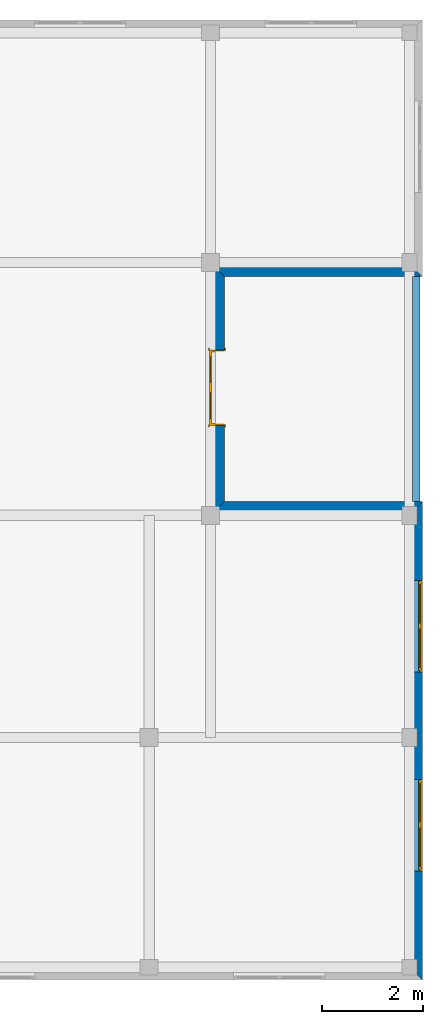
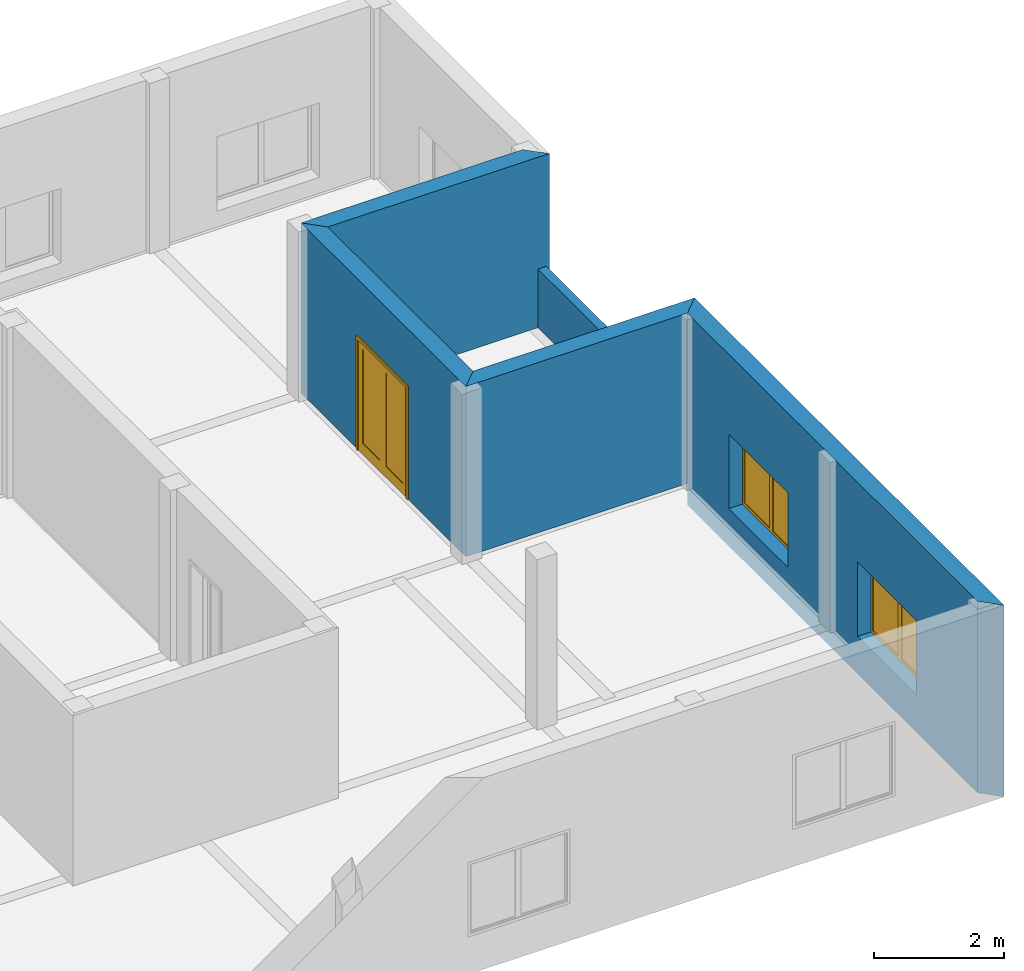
# One storey, part 4 of 6: 5 walls, 2 windows, 1 door, 3 openings.
"""IFC2X3 building model written with IfcOpenShell, lengths in millimetres."""

from ifc_helpers import new_model, entity, si_unit, converted_unit, direction, frame, origin_with_axes, origin_2d_with_axis, place, context, subcontext, project, spatial, polyline, rectangle, outline, extrude, faceted_brep, source, transform, mapped, material, layer, layer_set, layer_usage, type_object, element, fill, save


model = new_model("IFC2X3")

# Units and contexts
model_context = context("Model", 3, precision=1e-05, world=origin_with_axes(), true_north=direction((0.0, 1.0)))
body_context = subcontext(model_context, "Body", "Model", "MODEL_VIEW")
ifc_project = project(units=[si_unit("LENGTHUNIT", "METRE", prefix="MILLI"), si_unit("AREAUNIT", "SQUARE_METRE"), si_unit("VOLUMEUNIT", "CUBIC_METRE"), converted_unit("PLANEANGLEUNIT", "DEGREE", entity("IfcPlaneAngleMeasure", 0.017453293), si_unit("PLANEANGLEUNIT", "RADIAN"), dimensions=[0, 0, 0, 0, 0, 0, 0]), si_unit("SOLIDANGLEUNIT", "STERADIAN"), si_unit("MASSUNIT", "GRAM"), si_unit("TIMEUNIT", "SECOND"), si_unit("THERMODYNAMICTEMPERATUREUNIT", "DEGREE_CELSIUS"), si_unit("LUMINOUSINTENSITYUNIT", "LUMEN")], contexts=[model_context])

# Site, building, storey
site_placement = place(None, origin_with_axes())
site = spatial("IfcSite", under=ifc_project, at=site_placement, Name="Sitio", CompositionType="ELEMENT")
building_placement = place(site_placement, origin_with_axes())
building = spatial("IfcBuilding", under=site, at=building_placement, Name="Ejemplo_StruBIM", CompositionType="ELEMENT")
storey_placement = place(building_placement, frame((0.0, 0.0, 3200.4), z_axis=(0.0, 0.0, 1.0), x_axis=(1.0, 0.0, 0.0)))
storey = spatial("IfcBuildingStorey", under=building, at=storey_placement, Name="First floor", CompositionType="ELEMENT", Elevation=3200.4)

# Walls
ifc_material_1 = material(Name="Bloque mampostería")
ifc_layer_1 = layer(ifc_material_1, 300.0, ventilated="UNKNOWN")
ifc_layer_set_1 = layer_set([ifc_layer_1], Name="Bloque mampostería 300")
ifc_layer_usage_1 = layer_usage(ifc_layer_set_1, "AXIS2", "POSITIVE", 0.0)
wall_type_1 = type_object("IfcWallType", Name="Bloque mampostería 11 3/4\"", PredefinedType="NOTDEFINED")
wall_1_placement = place(storey_placement, frame((18872.2, 13741.4, 0.0), z_axis=(0.0, 0.0, 1.0), x_axis=(1.0, 0.0, 0.0)))
element("IfcWallStandardCase", 1, at=wall_1_placement, inside=storey, type_object=wall_type_1, material=ifc_layer_usage_1, Name="Muro-012", context=body_context, shape_type="SweptSolid", body=[
    extrude(outline(polyline([(0.0, 0.0), (3937.0, 0.0), (3637.0, 300.0), (-300.0, 300.0), (0.0, 0.0)])), origin_with_axes(), (0.0, 0.0, 1.0), 3200.4),
])
ifc_layer_usage_2 = layer_usage(ifc_layer_set_1, "AXIS2", "POSITIVE", 0.0)
wall_2_placement = place(storey_placement, frame((22809.2, 9271.0, 0.0), z_axis=(0.0, 0.0, 1.0), x_axis=(-1.0, 0.0, 0.0)))
element("IfcWallStandardCase", 2, at=wall_2_placement, inside=storey, type_object=wall_type_1, material=ifc_layer_usage_2, Name="Muro-012", context=body_context, shape_type="SweptSolid", body=[
    extrude(outline(polyline([(0.0, 0.0), (3937.0, 0.0), (4237.0, 300.0), (300.0, 300.0), (0.0, 0.0)])), origin_with_axes(), (0.0, 0.0, 1.0), 3200.4),
])

# Wall, opening, door
ifc_layer_usage_3 = layer_usage(ifc_layer_set_1, "AXIS2", "POSITIVE", 0.0)
wall_3_placement = place(storey_placement, frame((18872.2, 9271.0, 0.0), z_axis=(0.0, 0.0, 1.0), x_axis=(0.0, 1.0, 0.0)))
wall_3 = element("IfcWallStandardCase", 3, at=wall_3_placement, inside=storey, type_object=wall_type_1, material=ifc_layer_usage_3, Name="Muro-013", context=body_context, shape_type="SweptSolid", body=[
    extrude(outline(polyline([(0.0, 0.0), (4470.4, 0.0), (4770.4, 300.0), (-300.0, 300.0), (0.0, 0.0)])), origin_with_axes(), (0.0, 0.0, 1.0), 3200.4),
])
opening_1_placement = place(wall_3_placement, frame((2260.6, 0.0, 0.0), z_axis=(0.0, 0.0, 1.0), x_axis=(1.0, 0.0, 0.0)))
opening_1 = element("IfcOpeningElement", 4, at=opening_1_placement, cuts=wall_3, Name="P07", context=body_context, shape_type="SweptSolid", body=[
    extrude(rectangle(XDim=1500.0, YDim=2100.0, at=origin_2d_with_axis()), frame((0.0, 0.0, 1050.0), z_axis=(0.0, -1.0, 0.0), x_axis=(1.0, 0.0, 0.0)), (0.0, 0.0, -1.0), 300.0),
    extrude(rectangle(XDim=1574.0, YDim=2137.0, at=origin_2d_with_axis()), frame((0.0, 0.0, 1068.5), z_axis=(0.0, -1.0, 0.0), x_axis=(1.0, 0.0, 0.0)), (0.0, 0.0, 1.0), 300.0),
    extrude(rectangle(XDim=1574.0, YDim=2137.0, at=origin_2d_with_axis()), frame((0.0, 300.0, 1068.5), z_axis=(0.0, 1.0, 0.0), x_axis=(1.0, 0.0, 0.0)), (0.0, 0.0, 1.0), 300.0),
])
ifc_material_2 = material(Name="Fondo")
door_style = type_object("IfcDoorStyle", Name="Puerta Doble 16", ConstructionType="NOTDEFINED", OperationType="SINGLE_SWING_LEFT", ParameterTakesPrecedence=False, Sizeable=False)
shared_shape_1 = source(origin_with_axes(), body_context, "Body", "Brep", [
    faceted_brep([(750.0, -115.0, 0.0), (750.0, -300.0, 0.0), (725.0, -300.0, 0.0), (725.0, -115.0, 0.0), (750.0, -115.0, 2100.0), (750.0, -300.0, 2100.0), (725.0, -300.0, 2075.0), (725.0, -115.0, 2075.0)], [[[0, 1, 2, 3]], [[4, 5, 1, 0]], [[1, 5, 6, 2]], [[3, 2, 6, 7]], [[0, 3, 7, 4]], [[7, 6, 5, 4]]]),
    faceted_brep([(-750.0, -115.0, 2100.0), (-750.0, -300.0, 2100.0), (-725.0, -300.0, 2075.0), (-725.0, -115.0, 2075.0), (-750.0, -115.0, 0.0), (-750.0, -300.0, 0.0), (-725.0, -300.0, 0.0), (-725.0, -115.0, 0.0)], [[[0, 1, 2, 3]], [[4, 5, 1, 0]], [[1, 5, 6, 2]], [[3, 2, 6, 7]], [[0, 3, 7, 4]], [[7, 6, 5, 4]]]),
    faceted_brep([(725.0, -115.0, 2075.0), (725.0, -300.0, 2075.0), (-725.0, -300.0, 2075.0), (-725.0, -115.0, 2075.0), (750.0, -115.0, 2100.0), (750.0, -300.0, 2100.0), (-750.0, -300.0, 2100.0), (-750.0, -115.0, 2100.0)], [[[0, 1, 2, 3]], [[4, 5, 1, 0]], [[1, 5, 6, 2]], [[3, 2, 6, 7]], [[0, 3, 7, 4]], [[7, 6, 5, 4]]]),
    faceted_brep([(787.0, -319.0, 0.0), (737.0, -319.0, 0.0), (737.0, -300.0, 0.0), (787.0, -300.0, 0.0), (787.0, -319.0, 2137.0), (737.0, -319.0, 2087.0), (737.0, -300.0, 2087.0), (787.0, -300.0, 2137.0)], [[[0, 1, 2, 3]], [[0, 4, 5, 1]], [[1, 5, 6, 2]], [[3, 2, 6, 7]], [[4, 0, 3, 7]], [[5, 4, 7, 6]]]),
    faceted_brep([(-787.0, -319.0, 2137.0), (-737.0, -319.0, 2087.0), (-737.0, -300.0, 2087.0), (-787.0, -300.0, 2137.0), (-787.0, -319.0, 0.0), (-737.0, -319.0, 0.0), (-737.0, -300.0, 0.0), (-787.0, -300.0, 0.0)], [[[0, 1, 2, 3]], [[0, 4, 5, 1]], [[1, 5, 6, 2]], [[3, 2, 6, 7]], [[4, 0, 3, 7]], [[5, 4, 7, 6]]]),
    faceted_brep([(787.0, -319.0, 2137.0), (737.0, -319.0, 2087.0), (737.0, -300.0, 2087.0), (787.0, -300.0, 2137.0), (-787.0, -319.0, 2137.0), (-737.0, -319.0, 2087.0), (-737.0, -300.0, 2087.0), (-787.0, -300.0, 2137.0)], [[[0, 1, 2, 3]], [[0, 4, 5, 1]], [[1, 5, 6, 2]], [[3, 2, 6, 7]], [[4, 0, 3, 7]], [[5, 4, 7, 6]]]),
    faceted_brep([(787.0, 19.0, 0.0), (787.0, 0.0, 0.0), (737.0, 0.0, 0.0), (737.0, 19.0, 0.0), (787.0, 19.0, 2137.0), (787.0, 0.0, 2137.0), (737.0, 0.0, 2087.0), (737.0, 19.0, 2087.0)], [[[0, 1, 2, 3]], [[4, 5, 1, 0]], [[1, 5, 6, 2]], [[3, 2, 6, 7]], [[0, 3, 7, 4]], [[7, 6, 5, 4]]]),
    faceted_brep([(-787.0, 19.0, 2137.0), (-787.0, 0.0, 2137.0), (-737.0, 0.0, 2087.0), (-737.0, 19.0, 2087.0), (-787.0, 19.0, 0.0), (-787.0, 0.0, 0.0), (-737.0, 0.0, 0.0), (-737.0, 19.0, 0.0)], [[[0, 1, 2, 3]], [[4, 5, 1, 0]], [[1, 5, 6, 2]], [[3, 2, 6, 7]], [[0, 3, 7, 4]], [[7, 6, 5, 4]]]),
    faceted_brep([(787.0, 19.0, 2137.0), (787.0, 0.0, 2137.0), (737.0, 0.0, 2087.0), (737.0, 19.0, 2087.0), (-787.0, 19.0, 2137.0), (-787.0, 0.0, 2137.0), (-737.0, 0.0, 2087.0), (-737.0, 19.0, 2087.0)], [[[0, 1, 2, 3]], [[4, 5, 1, 0]], [[1, 5, 6, 2]], [[3, 2, 6, 7]], [[0, 3, 7, 4]], [[7, 6, 5, 4]]]),
    faceted_brep([(710.0, -40.0, 0.0), (710.0, -115.0, 0.0), (710.0, -115.0, 2060.0), (710.0, -40.0, 2060.0), (722.0, -40.0, 0.0), (722.0, 2.2351741e-07, 0.0), (750.0, 2.2351741e-07, -3.8951635e-07), (750.0, -115.0, 0.0), (750.0, -115.0, 2060.0), (722.0, -40.0, 2060.0), (750.0, 2.2351741e-07, 2060.0), (722.0, 2.2351741e-07, 2060.0)], [[[0, 1, 2, 3]], [[4, 5, 6, 7, 1, 0]], [[8, 2, 1, 7]], [[9, 3, 2, 8, 10, 11]], [[9, 4, 0, 3]], [[11, 5, 4, 9]], [[11, 10, 6, 5]], [[7, 6, 10, 8]]]),
    faceted_brep([(-722.0, -40.0, 2060.0), (-722.0, 2.2351741e-07, 2060.0), (-750.0, 2.2351741e-07, 2060.0), (-750.0, -115.0, 2060.0), (-710.0, -115.0, 2060.0), (-710.0, -40.0, 2060.0), (-722.0, -40.0, 0.0), (-722.0, 2.2351741e-07, 0.0), (-750.0, 2.2351741e-07, -3.8951635e-07), (-750.0, -115.0, 0.0), (-710.0, -115.0, 0.0), (-710.0, -40.0, 0.0)], [[[0, 1, 2, 3, 4, 5]], [[0, 6, 7, 1]], [[7, 8, 2, 1]], [[3, 2, 8, 9]], [[10, 4, 3, 9]], [[5, 4, 10, 11]], [[5, 11, 6, 0]], [[6, 11, 10, 9, 8, 7]]]),
    faceted_brep([(722.0, 2.2351741e-07, 2072.0), (-722.0, 2.2351741e-07, 2072.0), (-722.0, 2.2351741e-07, 2060.0), (-750.0, 2.2351741e-07, 2060.0), (-750.0, 2.2351741e-07, 2100.0), (750.0, 2.2351741e-07, 2100.0), (750.0, 2.2351741e-07, 2060.0), (722.0, 2.2351741e-07, 2060.0), (722.0, -40.0, 2072.0), (-722.0, -40.0, 2072.0), (-722.0, -40.0, 2060.0), (-710.0, -40.0, 2060.0), (-710.0, -115.0, 2060.0), (-750.0, -115.0, 2060.0), (-750.0, -115.0, 2100.0), (750.0, -115.0, 2100.0), (750.0, -115.0, 2060.0), (722.0, -40.0, 2060.0), (710.0, -115.0, 2060.0), (710.0, -40.0, 2060.0)], [[[0, 1, 2, 3, 4, 5, 6, 7]], [[0, 8, 9, 1]], [[1, 9, 10, 2]], [[10, 11, 12, 13, 3, 2]], [[14, 4, 3, 13]], [[15, 5, 4, 14]], [[16, 6, 5, 15]], [[17, 7, 6, 16, 18, 19]], [[7, 17, 8, 0]], [[10, 9, 8, 17, 19, 11]], [[19, 18, 12, 11]], [[14, 13, 12, 18, 16, 15]]]),
    faceted_brep([(-722.0, 0.0, 200.0), (-622.0, 0.0, 200.0), (-622.0, -40.0, 200.0), (-722.0, -40.0, 200.0), (-722.0, 0.0, 1972.0), (-622.0, 0.0, 1972.0), (-622.0, -40.0, 1972.0), (-722.0, -40.0, 1972.0)], [[[0, 1, 2, 3]], [[0, 4, 5, 1]], [[1, 5, 6, 2]], [[3, 2, 6, 7]], [[4, 0, 3, 7]], [[5, 4, 7, 6]]]),
    faceted_brep([(0.0, 0.0, 200.0), (0.0, 0.0, 1972.0), (0.0, -40.0, 1972.0), (0.0, -40.0, 200.0), (-100.0, 0.0, 200.0), (-100.0, 0.0, 1972.0), (-100.0, -40.0, 1972.0), (-100.0, -40.0, 200.0)], [[[0, 1, 2, 3]], [[0, 4, 5, 1]], [[1, 5, 6, 2]], [[3, 2, 6, 7]], [[4, 0, 3, 7]], [[5, 4, 7, 6]]]),
    faceted_brep([(-722.0, 0.0, 0.0), (0.0, 0.0, 0.0), (0.0, -40.0, 0.0), (-722.0, -40.0, 0.0), (-722.0, 0.0, 200.0), (-622.0, 0.0, 200.0), (-100.0, 0.0, 200.0), (0.0, 0.0, 200.0), (0.0, -40.0, 200.0), (-100.0, -40.0, 200.0), (-622.0, -40.0, 200.0), (-722.0, -40.0, 200.0)], [[[0, 1, 2, 3]], [[0, 4, 5, 6, 7, 1]], [[1, 7, 8, 2]], [[3, 2, 8, 9, 10, 11]], [[4, 0, 3, 11]], [[5, 4, 11, 10]], [[6, 5, 10, 9]], [[7, 6, 9, 8]]]),
    faceted_brep([(-722.0, 0.0, 2072.0), (-722.0, 0.0, 1972.0), (-722.0, -40.0, 1972.0), (-722.0, -40.0, 2072.0), (0.0, 0.0, 2072.0), (0.0, 0.0, 1972.0), (-100.0, 0.0, 1972.0), (-622.0, 0.0, 1972.0), (-622.0, -40.0, 1972.0), (-100.0, -40.0, 1972.0), (0.0, -40.0, 1972.0), (0.0, -40.0, 2072.0)], [[[0, 1, 2, 3]], [[0, 4, 5, 6, 7, 1]], [[1, 7, 8, 2]], [[3, 2, 8, 9, 10, 11]], [[4, 0, 3, 11]], [[5, 4, 11, 10]], [[6, 5, 10, 9]], [[7, 6, 9, 8]]]),
    faceted_brep([(-622.0, -14.0, 200.0), (-100.0, -14.0, 200.0), (-100.0, -26.0, 200.0), (-622.0, -26.0, 200.0), (-622.0, -14.0, 1972.0), (-100.0, -14.0, 1972.0), (-100.0, -26.0, 1972.0), (-622.0, -26.0, 1972.0)], [[[0, 1, 2, 3]], [[0, 4, 5, 1]], [[1, 5, 6, 2]], [[3, 2, 6, 7]], [[4, 0, 3, 7]], [[5, 4, 7, 6]]]),
    faceted_brep([(722.0, 0.0, 200.0), (722.0, -40.0, 200.0), (622.0, -40.0, 200.0), (622.0, 0.0, 200.0), (722.0, 0.0, 1972.0), (722.0, -40.0, 1972.0), (622.0, -40.0, 1972.0), (622.0, 0.0, 1972.0)], [[[0, 1, 2, 3]], [[4, 5, 1, 0]], [[1, 5, 6, 2]], [[3, 2, 6, 7]], [[0, 3, 7, 4]], [[7, 6, 5, 4]]]),
    faceted_brep([(0.0, 0.0, 200.0), (0.0, -40.0, 200.0), (0.0, -40.0, 1972.0), (0.0, 0.0, 1972.0), (100.0, 0.0, 200.0), (100.0, -40.0, 200.0), (100.0, -40.0, 1972.0), (100.0, 0.0, 1972.0)], [[[0, 1, 2, 3]], [[4, 5, 1, 0]], [[1, 5, 6, 2]], [[3, 2, 6, 7]], [[0, 3, 7, 4]], [[7, 6, 5, 4]]]),
    faceted_brep([(722.0, 0.0, 0.0), (722.0, -40.0, 0.0), (0.0, -40.0, 0.0), (0.0, 0.0, 0.0), (722.0, 0.0, 200.0), (722.0, -40.0, 200.0), (622.0, -40.0, 200.0), (100.0, -40.0, 200.0), (0.0, -40.0, 200.0), (0.0, 0.0, 200.0), (100.0, 0.0, 200.0), (622.0, 0.0, 200.0)], [[[0, 1, 2, 3]], [[4, 5, 1, 0]], [[1, 5, 6, 7, 8, 2]], [[3, 2, 8, 9]], [[0, 3, 9, 10, 11, 4]], [[11, 6, 5, 4]], [[10, 7, 6, 11]], [[9, 8, 7, 10]]]),
    faceted_brep([(722.0, 0.0, 2072.0), (722.0, -40.0, 2072.0), (722.0, -40.0, 1972.0), (722.0, 0.0, 1972.0), (0.0, 0.0, 2072.0), (0.0, -40.0, 2072.0), (0.0, -40.0, 1972.0), (100.0, -40.0, 1972.0), (622.0, -40.0, 1972.0), (622.0, 0.0, 1972.0), (100.0, 0.0, 1972.0), (0.0, 0.0, 1972.0)], [[[0, 1, 2, 3]], [[4, 5, 1, 0]], [[1, 5, 6, 7, 8, 2]], [[3, 2, 8, 9]], [[0, 3, 9, 10, 11, 4]], [[11, 6, 5, 4]], [[10, 7, 6, 11]], [[9, 8, 7, 10]]]),
    faceted_brep([(622.0, -14.0, 200.0), (622.0, -26.0, 200.0), (100.0, -26.0, 200.0), (100.0, -14.0, 200.0), (622.0, -14.0, 1972.0), (622.0, -26.0, 1972.0), (100.0, -26.0, 1972.0), (100.0, -14.0, 1972.0)], [[[0, 1, 2, 3]], [[4, 5, 1, 0]], [[1, 5, 6, 2]], [[3, 2, 6, 7]], [[0, 3, 7, 4]], [[7, 6, 5, 4]]]),
])
door_placement = place(opening_1_placement, frame((-750.0, 0.0, 0.0), z_axis=(0.0, 0.0, 1.0), x_axis=(1.0, 0.0, 0.0)))
door = element("IfcDoor", 5, at=door_placement, inside=storey, type_object=door_style, material=ifc_material_2, Name="P07", OverallHeight=2100.0, OverallWidth=1500.0, context=body_context, shape_type="MappedRepresentation", body=[
    mapped(shared_shape_1, transform((750.0, 300.0, 0.0))),
])
fill(opening_1, door)

# Wall, openings, windows
ifc_layer_usage_4 = layer_usage(ifc_layer_set_1, "AXIS2", "POSITIVE", 0.0)
wall_4_placement = place(storey_placement, frame((22809.2, -254.0, -400.0), z_axis=(0.0, 0.0, 1.0), x_axis=(0.0, 1.0, 0.0)))
wall_4 = element("IfcWallStandardCase", 6, at=wall_4_placement, inside=storey, type_object=wall_type_1, material=ifc_layer_usage_4, Name="Muro-014", context=body_context, shape_type="SweptSolid", body=[
    extrude(outline(polyline([(0.0, 0.0), (9525.0, 0.0), (9225.0, 300.0), (300.0, 300.0), (0.0, 0.0)])), origin_with_axes(), (0.0, 0.0, 1.0), 3600.4),
])
opening_2_placement = place(wall_4_placement, frame((7040.2, 0.0, 700.0), z_axis=(0.0, 0.0, 1.0), x_axis=(1.0, 0.0, 0.0)))
opening_2 = element("IfcOpeningElement", 7, at=opening_2_placement, cuts=wall_4, Name="V14", context=body_context, shape_type="SweptSolid", body=[
    extrude(rectangle(XDim=1820.0, YDim=1400.0, at=origin_2d_with_axis()), frame((0.0, 300.0, 700.0), z_axis=(0.0, -1.0, 0.0), x_axis=(1.0, 0.0, 0.0)), (0.0, 0.0, 1.0), 300.0),
])
opening_3_placement = place(wall_4_placement, frame((3081.7, 0.0, 700.0), z_axis=(0.0, 0.0, 1.0), x_axis=(1.0, 0.0, 0.0)))
opening_3 = element("IfcOpeningElement", 8, at=opening_3_placement, cuts=wall_4, Name="V15", context=body_context, shape_type="SweptSolid", body=[
    extrude(rectangle(XDim=1820.0, YDim=1400.0, at=origin_2d_with_axis()), frame((0.0, 300.0, 700.0), z_axis=(0.0, -1.0, 0.0), x_axis=(1.0, 0.0, 0.0)), (0.0, 0.0, 1.0), 300.0),
])
window_style = type_object("IfcWindowStyle", Name="Ventana Doble Hoja 16", ConstructionType="NOTDEFINED", OperationType="DOUBLE_PANEL_HORIZONTAL", ParameterTakesPrecedence=False, Sizeable=False)
shared_shape_2 = source(origin_with_axes(), body_context, "Body", "Brep", [
    faceted_brep([(-885.0, -50.0, 1350.0), (-885.0, -25.0, 1350.0), (-860.0, -25.0, 1350.0), (-860.0, 0.0, 1350.0), (-910.0, 0.0, 1350.0), (-910.0, -50.0, 1350.0), (-885.0, -50.0, 50.0), (-885.0, -25.0, 50.0), (-860.0, -25.0, 50.0), (-860.0, 0.0, 50.0), (-910.0, 0.0, 50.0), (-910.0, -50.0, 50.0)], [[[0, 1, 2, 3, 4, 5]], [[1, 0, 6, 7]], [[8, 2, 1, 7]], [[2, 8, 9, 3]], [[4, 3, 9, 10]], [[5, 4, 10, 11]], [[6, 0, 5, 11]], [[7, 6, 11, 10, 9, 8]]]),
    faceted_brep([(860.0, -25.0, 1350.0), (885.0, -25.0, 1350.0), (885.0, -50.0, 1350.0), (910.0, -50.0, 1350.0), (910.0, 0.0, 1350.0), (860.0, 0.0, 1350.0), (860.0, -25.0, 50.0), (885.0, -25.0, 50.0), (885.0, -50.0, 50.0), (910.0, -50.0, 50.0), (910.0, 0.0, 50.0), (860.0, 0.0, 50.0)], [[[0, 1, 2, 3, 4, 5]], [[1, 0, 6, 7]], [[8, 2, 1, 7]], [[2, 8, 9, 3]], [[9, 10, 4, 3]], [[10, 11, 5, 4]], [[6, 0, 5, 11]], [[7, 6, 11, 10, 9, 8]]]),
    faceted_brep([(860.0, -25.0, 50.0), (885.0, -25.0, 50.0), (885.0, -50.0, 50.0), (910.0, -50.0, 50.0), (910.0, 0.0, 50.0), (860.0, 0.0, 50.0), (-860.0, -25.0, 50.0), (-885.0, -25.0, 50.0), (-885.0, -25.0, 25.0), (885.0, -25.0, 25.0), (885.0, -50.0, 25.0), (-885.0, -50.0, 25.0), (-885.0, -50.0, 50.0), (-910.0, -50.0, 50.0), (-910.0, -50.0, 0.0), (910.0, -50.0, 0.0), (910.0, 0.0, 0.0), (-910.0, 0.0, 50.0), (-860.0, 0.0, 50.0), (-910.0, 0.0, 0.0)], [[[0, 1, 2, 3, 4, 5]], [[1, 0, 6, 7, 8, 9]], [[10, 2, 1, 9]], [[11, 12, 13, 14, 15, 3, 2, 10]], [[15, 16, 4, 3]], [[17, 18, 5, 4, 16, 19]], [[6, 0, 5, 18]], [[7, 6, 18, 17, 13, 12]], [[7, 12, 11, 8]], [[11, 10, 9, 8]], [[13, 17, 19, 14]], [[14, 19, 16, 15]]]),
    faceted_brep([(-885.0, -50.0, 1350.0), (-885.0, -50.0, 1375.0), (885.0, -50.0, 1375.0), (885.0, -50.0, 1350.0), (910.0, -50.0, 1350.0), (910.0, -50.0, 1400.0), (-910.0, -50.0, 1400.0), (-910.0, -50.0, 1350.0), (-885.0, -25.0, 1350.0), (-885.0, -25.0, 1375.0), (885.0, -25.0, 1375.0), (885.0, -25.0, 1350.0), (860.0, -25.0, 1350.0), (860.0, 0.0, 1350.0), (910.0, 0.0, 1350.0), (910.0, 0.0, 1400.0), (-910.0, 0.0, 1400.0), (-910.0, 0.0, 1350.0), (-860.0, 0.0, 1350.0), (-860.0, -25.0, 1350.0)], [[[0, 1, 2, 3, 4, 5, 6, 7]], [[1, 0, 8, 9]], [[2, 1, 9, 10]], [[3, 2, 10, 11]], [[11, 12, 13, 14, 4, 3]], [[4, 14, 15, 5]], [[5, 15, 16, 6]], [[6, 16, 17, 7]], [[8, 0, 7, 17, 18, 19]], [[12, 11, 10, 9, 8, 19]], [[12, 19, 18, 13]], [[14, 13, 18, 17, 16, 15]]]),
    faceted_brep([(-835.0, -25.0, 1325.0), (-885.0, -25.0, 1325.0), (-885.0, -75.0, 1325.0), (-835.0, -75.0, 1325.0), (-835.0, -25.0, 75.0), (-885.0, -25.0, 75.0), (-885.0, -75.0, 75.0), (-835.0, -75.0, 75.0)], [[[0, 1, 2, 3]], [[0, 4, 5, 1]], [[1, 5, 6, 2]], [[3, 2, 6, 7]], [[4, 0, 3, 7]], [[5, 4, 7, 6]]]),
    faceted_brep([(-50.0, -25.0, 75.0), (0.0, -25.0, 75.0), (0.0, -75.0, 75.0), (-50.0, -75.0, 75.0), (-50.0, -25.0, 1325.0), (0.0, -25.0, 1325.0), (0.0, -75.0, 1325.0), (-50.0, -75.0, 1325.0)], [[[0, 1, 2, 3]], [[0, 4, 5, 1]], [[1, 5, 6, 2]], [[3, 2, 6, 7]], [[4, 0, 3, 7]], [[5, 4, 7, 6]]]),
    faceted_brep([(0.0, -25.0, 25.0), (0.0, -25.0, 75.0), (0.0, -75.0, 75.0), (0.0, -75.0, 25.0), (-885.0, -25.0, 25.0), (-885.0, -25.0, 75.0), (-835.0, -25.0, 75.0), (-50.0, -25.0, 75.0), (-50.0, -75.0, 75.0), (-835.0, -75.0, 75.0), (-885.0, -75.0, 75.0), (-885.0, -75.0, 25.0)], [[[0, 1, 2, 3]], [[0, 4, 5, 6, 7, 1]], [[1, 7, 8, 2]], [[3, 2, 8, 9, 10, 11]], [[4, 0, 3, 11]], [[5, 4, 11, 10]], [[6, 5, 10, 9]], [[7, 6, 9, 8]]]),
    faceted_brep([(-885.0, -25.0, 1375.0), (-885.0, -25.0, 1325.0), (-885.0, -75.0, 1325.0), (-885.0, -75.0, 1375.0), (0.0, -25.0, 1375.0), (0.0, -25.0, 1325.0), (-50.0, -25.0, 1325.0), (-835.0, -25.0, 1325.0), (-835.0, -75.0, 1325.0), (-50.0, -75.0, 1325.0), (0.0, -75.0, 1325.0), (0.0, -75.0, 1375.0)], [[[0, 1, 2, 3]], [[0, 4, 5, 6, 7, 1]], [[1, 7, 8, 2]], [[3, 2, 8, 9, 10, 11]], [[4, 0, 3, 11]], [[5, 4, 11, 10]], [[6, 5, 10, 9]], [[7, 6, 9, 8]]]),
    faceted_brep([(-835.0, -40.0, 75.0), (-50.0, -40.0, 75.0), (-50.0, -60.0, 75.0), (-835.0, -60.0, 75.0), (-835.0, -40.0, 1325.0), (-50.0, -40.0, 1325.0), (-50.0, -60.0, 1325.0), (-835.0, -60.0, 1325.0)], [[[0, 1, 2, 3]], [[0, 4, 5, 1]], [[1, 5, 6, 2]], [[3, 2, 6, 7]], [[4, 0, 3, 7]], [[5, 4, 7, 6]]]),
    faceted_brep([(50.0, -25.0, 1325.0), (0.0, -25.0, 1325.0), (0.0, -75.0, 1325.0), (50.0, -75.0, 1325.0), (50.0, -25.0, 75.0), (0.0, -25.0, 75.0), (0.0, -75.0, 75.0), (50.0, -75.0, 75.0)], [[[0, 1, 2, 3]], [[0, 4, 5, 1]], [[1, 5, 6, 2]], [[3, 2, 6, 7]], [[4, 0, 3, 7]], [[5, 4, 7, 6]]]),
    faceted_brep([(835.0, -25.0, 75.0), (885.0, -25.0, 75.0), (885.0, -75.0, 75.0), (835.0, -75.0, 75.0), (835.0, -25.0, 1325.0), (885.0, -25.0, 1325.0), (885.0, -75.0, 1325.0), (835.0, -75.0, 1325.0)], [[[0, 1, 2, 3]], [[0, 4, 5, 1]], [[1, 5, 6, 2]], [[3, 2, 6, 7]], [[4, 0, 3, 7]], [[5, 4, 7, 6]]]),
    faceted_brep([(885.0, -25.0, 25.0), (885.0, -25.0, 75.0), (885.0, -75.0, 75.0), (885.0, -75.0, 25.0), (0.0, -25.0, 25.0), (0.0, -25.0, 75.0), (50.0, -25.0, 75.0), (835.0, -25.0, 75.0), (835.0, -75.0, 75.0), (50.0, -75.0, 75.0), (0.0, -75.0, 75.0), (0.0, -75.0, 25.0)], [[[0, 1, 2, 3]], [[0, 4, 5, 6, 7, 1]], [[1, 7, 8, 2]], [[3, 2, 8, 9, 10, 11]], [[4, 0, 3, 11]], [[5, 4, 11, 10]], [[6, 5, 10, 9]], [[7, 6, 9, 8]]]),
    faceted_brep([(0.0, -25.0, 1375.0), (0.0, -25.0, 1325.0), (0.0, -75.0, 1325.0), (0.0, -75.0, 1375.0), (885.0, -25.0, 1375.0), (885.0, -25.0, 1325.0), (835.0, -25.0, 1325.0), (50.0, -25.0, 1325.0), (50.0, -75.0, 1325.0), (835.0, -75.0, 1325.0), (885.0, -75.0, 1325.0), (885.0, -75.0, 1375.0)], [[[0, 1, 2, 3]], [[0, 4, 5, 6, 7, 1]], [[1, 7, 8, 2]], [[3, 2, 8, 9, 10, 11]], [[4, 0, 3, 11]], [[5, 4, 11, 10]], [[6, 5, 10, 9]], [[7, 6, 9, 8]]]),
    faceted_brep([(50.0, -40.0, 75.0), (835.0, -40.0, 75.0), (835.0, -60.0, 75.0), (50.0, -60.0, 75.0), (50.0, -40.0, 1325.0), (835.0, -40.0, 1325.0), (835.0, -60.0, 1325.0), (50.0, -60.0, 1325.0)], [[[0, 1, 2, 3]], [[0, 4, 5, 1]], [[1, 5, 6, 2]], [[3, 2, 6, 7]], [[4, 0, 3, 7]], [[5, 4, 7, 6]]]),
])
window_1_placement = place(opening_2_placement, frame((910.0, 0.0, 0.0), z_axis=(0.0, 0.0, 1.0), x_axis=(-1.0, 0.0, 0.0)))
window_1 = element("IfcWindow", 9, at=window_1_placement, inside=storey, type_object=window_style, material=ifc_material_2, Name="V14", OverallHeight=1400.0, OverallWidth=1820.0, context=body_context, shape_type="MappedRepresentation", body=[
    mapped(shared_shape_2, transform((910.0, 0.0, 0.0))),
])
fill(opening_2, window_1)
window_2_placement = place(opening_3_placement, frame((910.0, 0.0, 0.0), z_axis=(0.0, 0.0, 1.0), x_axis=(-1.0, 0.0, 0.0)))
window_2 = element("IfcWindow", 10, at=window_2_placement, inside=storey, type_object=window_style, material=ifc_material_2, Name="V15", OverallHeight=1400.0, OverallWidth=1820.0, context=body_context, shape_type="MappedRepresentation", body=[
    mapped(shared_shape_2, transform((910.0, 0.0, 0.0))),
])
fill(opening_3, window_2)

# Wall
ifc_layer_2 = layer(ifc_material_1, 150.0, ventilated="UNKNOWN")
ifc_layer_set_2 = layer_set([ifc_layer_2], Name="Bloque mampostería 150")
ifc_layer_usage_5 = layer_usage(ifc_layer_set_2, "AXIS2", "POSITIVE", 0.0)
wall_type_2 = type_object("IfcWallType", Name="Bloque mampostería 6\"", PredefinedType="NOTDEFINED")
wall_5_placement = place(storey_placement, frame((22758.4, 9271.0, 0.0), z_axis=(0.0, 0.0, 1.0), x_axis=(0.0, 1.0, 0.0)))
element("IfcWallStandardCase", 11, at=wall_5_placement, inside=storey, type_object=wall_type_2, material=ifc_layer_usage_5, Name="Muro-010", context=body_context, shape_type="SweptSolid", body=[
    extrude(outline(polyline([(0.0, 0.0), (4470.4, 0.0), (4470.4, 150.0), (0.0, 150.0), (0.0, 0.0)])), origin_with_axes(), (0.0, 0.0, 1.0), 1100.0),
])

save(model, "model.ifc")
